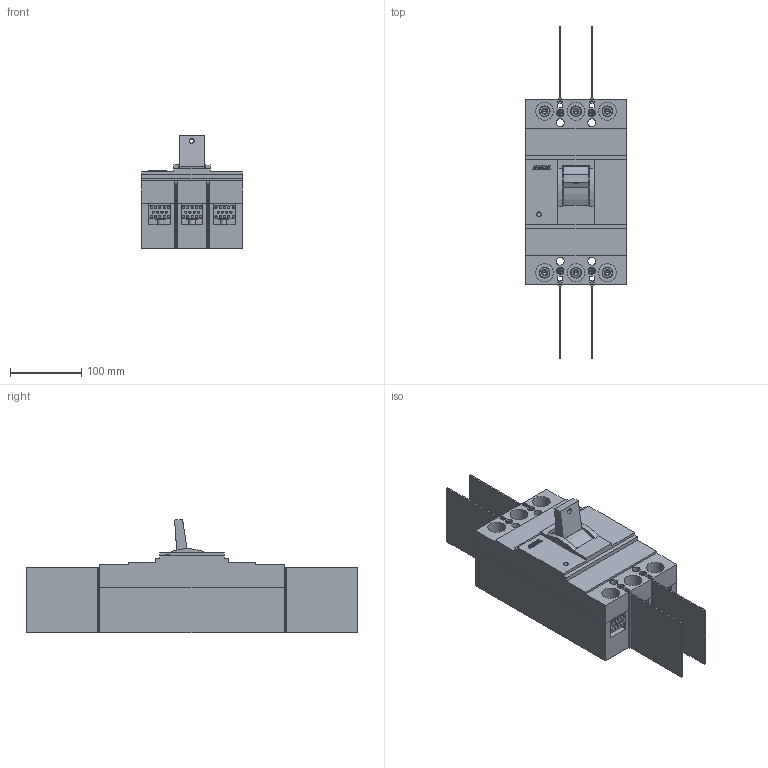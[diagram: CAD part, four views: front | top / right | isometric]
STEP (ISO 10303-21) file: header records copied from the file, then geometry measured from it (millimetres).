
FILE_DESCRIPTION(('FreeCAD Model'),'2;1');
FILE_NAME('Open CASCADE Shape Model','2022-08-23T11:00:46',( 'Engenharia Metaltex'),('Metaltex'), 'Open CASCADE STEP processor 7.5','FreeCAD','Unknown');
FILE_SCHEMA(('AUTOMOTIVE_DESIGN { 1 0 10303 214 1 1 1 1 }'));
Length unit declared in the file: millimetre
Products named in the file (21): DCM400S; G1; G007; G006; G008; G009; G010; Body012; Body013; Knob001; PM1; PM2; PM5; PM6; C1; C2; C3; C4; Logo Pronto004; P007; Cut003
Assembly tree (29 placements, depth 2):
  DCM400S
    G1
    G007
    G006
    G008
    G009
    G010
    Body012
    Body013
    Knob001
    PM1  x5
    PM2
    PM5
    PM6
    C1
    C2
    C3
    C4
    Logo Pronto004
    P007  x6
    Cut003
Bounding box: 141 x 464.76 x 159.12 mm (x, y, z)
Volume: 3490011.6 mm3; surface area: 387720.6 mm2
Topology: 36 solids, 38 shells, 1150 faces, 2723 edges, 1664 vertices
Faces by surface type: plane 479, cylinder 327, cone 236, bspline 96, torus 12
Full cylindrical faces by diameter (mm): 3 x84, 6 x1, 6.5 x1, 7 x1, 10 x6, 11 x8, 25 x6
Entity records: 47925 total; most frequent: CARTESIAN_POINT 11399, DIRECTION 5470, ORIENTED_EDGE 3734, PCURVE 3734, DEFINITIONAL_REPRESENTATION 3734, LINE 3127, VECTOR 3127, EDGE_CURVE 1867
